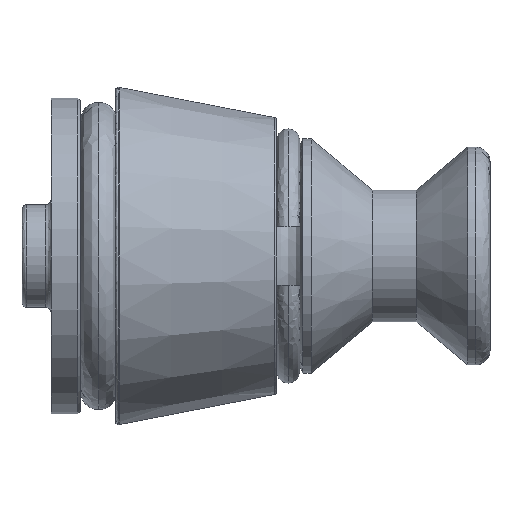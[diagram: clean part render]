
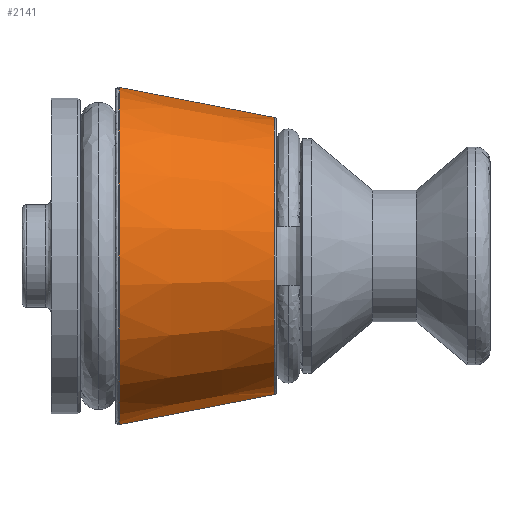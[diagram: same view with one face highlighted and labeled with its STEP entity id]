
A CAD part, left-side view. The second image highlights one B-rep face of the part: STEP entity #2141.
In plain terms, the highlighted conical face has half-angle 11 degrees and reference radius 5.763 mm.
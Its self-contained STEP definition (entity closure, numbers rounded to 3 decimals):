
#55 = VERTEX_POINT ( 'NONE', #2047 ) ;
#261 = ORIENTED_EDGE ( 'NONE', *, *, #1741, .T. ) ;
#303 = CARTESIAN_POINT ( 'NONE',  ( 0., 12.681, -5.763 ) ) ;
#310 = DIRECTION ( 'NONE',  ( 0., 1., 0. ) ) ;
#373 = LINE ( 'NONE', #303, #2116 ) ;
#411 = EDGE_LOOP ( 'NONE', ( #679, #721, #261, #684 ) ) ;
#597 = EDGE_CURVE ( 'NONE', #2532, #55, #373, .T. ) ;
#679 = ORIENTED_EDGE ( 'NONE', *, *, #597, .F. ) ;
#684 = ORIENTED_EDGE ( 'NONE', *, *, #708, .T. ) ;
#708 = EDGE_CURVE ( 'NONE', #764, #55, #2391, .T. ) ;
#721 = ORIENTED_EDGE ( 'NONE', *, *, #1191, .T. ) ;
#757 = DIRECTION ( 'NONE',  ( 0., 1., 0. ) ) ;
#764 = VERTEX_POINT ( 'NONE', #1244 ) ;
#861 = AXIS2_PLACEMENT_3D ( 'NONE', #2237, #310, #2470 ) ;
#966 = DIRECTION ( 'NONE',  ( 0., 0.982, -0.191 ) ) ;
#1131 = AXIS2_PLACEMENT_3D ( 'NONE', #1184, #1187, #1193 ) ;
#1184 = CARTESIAN_POINT ( 'NONE',  ( 0., 12.681, 0. ) ) ;
#1187 = DIRECTION ( 'NONE',  ( 0., -1., 0. ) ) ;
#1191 = EDGE_CURVE ( 'NONE', #2532, #1966, #2261, .T. ) ;
#1193 = DIRECTION ( 'NONE',  ( 0., 0., 1. ) ) ;
#1244 = CARTESIAN_POINT ( 'NONE',  ( 0., 12.681, 5.763 ) ) ;
#1687 = DIRECTION ( 'NONE',  ( 0., 0., 1. ) ) ;
#1741 = EDGE_CURVE ( 'NONE', #1966, #764, #2675, .T. ) ;
#1851 = DIRECTION ( 'NONE',  ( 0., 0.982, 0.191 ) ) ;
#1921 = CARTESIAN_POINT ( 'NONE',  ( 0., 12.681, 5.763 ) ) ;
#1966 = VERTEX_POINT ( 'NONE', #2046 ) ;
#2046 = CARTESIAN_POINT ( 'NONE',  ( 0., 7.381, 4.733 ) ) ;
#2047 = CARTESIAN_POINT ( 'NONE',  ( 0., 12.681, -5.763 ) ) ;
#2112 = CARTESIAN_POINT ( 'NONE',  ( 0., 7.381, -4.733 ) ) ;
#2116 = VECTOR ( 'NONE', #966, 1000. ) ;
#2141 = ADVANCED_FACE ( 'NONE', ( #2190 ), #2152, .T. ) ;
#2152 = CONICAL_SURFACE ( 'NONE', #2280, 5.763, 0.192 ) ;
#2190 = FACE_OUTER_BOUND ( 'NONE', #411, .T. ) ;
#2237 = CARTESIAN_POINT ( 'NONE',  ( 0., 7.381, 0. ) ) ;
#2261 = CIRCLE ( 'NONE', #861, 4.733 ) ;
#2280 = AXIS2_PLACEMENT_3D ( 'NONE', #2570, #757, #1687 ) ;
#2391 = CIRCLE ( 'NONE', #1131, 5.763 ) ;
#2470 = DIRECTION ( 'NONE',  ( 0., 0., 1. ) ) ;
#2532 = VERTEX_POINT ( 'NONE', #2112 ) ;
#2570 = CARTESIAN_POINT ( 'NONE',  ( 0., 12.681, 0. ) ) ;
#2649 = VECTOR ( 'NONE', #1851, 1000. ) ;
#2675 = LINE ( 'NONE', #1921, #2649 ) ;
